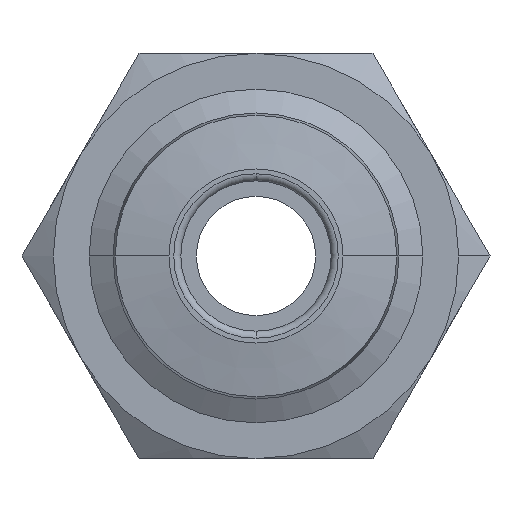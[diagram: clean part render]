
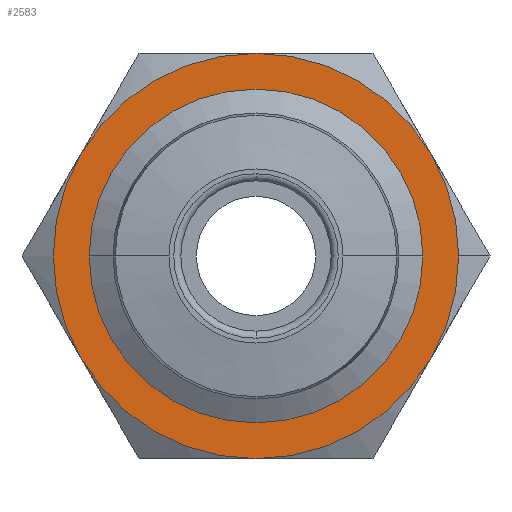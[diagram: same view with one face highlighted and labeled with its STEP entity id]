
A CAD part, front view. The second image highlights one B-rep face of the part: STEP entity #2583.
In plain terms, the highlighted planar face has unit normal (0, -1, 0).
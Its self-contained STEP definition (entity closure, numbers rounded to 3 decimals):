
#45 = ORIENTED_EDGE ( 'NONE', *, *, #182, .T. ) ;
#82 = DIRECTION ( 'NONE',  ( 1., 0., 0. ) ) ;
#149 = DIRECTION ( 'NONE',  ( 1., 0., 0. ) ) ;
#152 = AXIS2_PLACEMENT_3D ( 'NONE', #476, #249, #1048 ) ;
#154 = DIRECTION ( 'NONE',  ( 0., -1., 0. ) ) ;
#174 = DIRECTION ( 'NONE',  ( 1., 0., 0. ) ) ;
#182 = EDGE_CURVE ( 'NONE', #1107, #894, #2553, .T. ) ;
#243 = DIRECTION ( 'NONE',  ( 0., -1., 0. ) ) ;
#249 = DIRECTION ( 'NONE',  ( 0., -1., 0. ) ) ;
#312 = VERTEX_POINT ( 'NONE', #1612 ) ;
#388 = PLANE ( 'NONE',  #1300 ) ;
#403 = CIRCLE ( 'NONE', #911, 8.5 ) ;
#412 = CARTESIAN_POINT ( 'NONE',  ( 0., -6., 0. ) ) ;
#476 = CARTESIAN_POINT ( 'NONE',  ( 0., -6., 0. ) ) ;
#482 = CARTESIAN_POINT ( 'NONE',  ( 0., -6., 8.5 ) ) ;
#544 = FACE_BOUND ( 'NONE', #2264, .T. ) ;
#623 = CARTESIAN_POINT ( 'NONE',  ( 0., -6., 0. ) ) ;
#671 = EDGE_CURVE ( 'NONE', #1108, #312, #1141, .T. ) ;
#704 = EDGE_CURVE ( 'NONE', #1201, #2298, #403, .T. ) ;
#738 = CARTESIAN_POINT ( 'NONE',  ( 0., -6., 0. ) ) ;
#786 = CARTESIAN_POINT ( 'NONE',  ( 0., -6., -8.5 ) ) ;
#894 = VERTEX_POINT ( 'NONE', #482 ) ;
#911 = AXIS2_PLACEMENT_3D ( 'NONE', #1237, #2407, #2042 ) ;
#924 = ORIENTED_EDGE ( 'NONE', *, *, #945, .T. ) ;
#935 = DIRECTION ( 'NONE',  ( 1., 0., 0. ) ) ;
#945 = EDGE_CURVE ( 'NONE', #894, #1201, #2468, .T. ) ;
#957 = CARTESIAN_POINT ( 'NONE',  ( 7.75, -6., 0. ) ) ;
#1048 = DIRECTION ( 'NONE',  ( 1., 0., 0. ) ) ;
#1107 = VERTEX_POINT ( 'NONE', #2590 ) ;
#1108 = VERTEX_POINT ( 'NONE', #786 ) ;
#1109 = EDGE_CURVE ( 'NONE', #2298, #1108, #1265, .T. ) ;
#1141 = CIRCLE ( 'NONE', #2609, 8.5 ) ;
#1158 = CARTESIAN_POINT ( 'NONE',  ( 0., -6., 0. ) ) ;
#1186 = AXIS2_PLACEMENT_3D ( 'NONE', #1362, #1938, #2368 ) ;
#1198 = DIRECTION ( 'NONE',  ( 0., 0., -1. ) ) ;
#1201 = VERTEX_POINT ( 'NONE', #1289 ) ;
#1216 = ORIENTED_EDGE ( 'NONE', *, *, #2534, .T. ) ;
#1225 = EDGE_CURVE ( 'NONE', #312, #1621, #2304, .T. ) ;
#1237 = CARTESIAN_POINT ( 'NONE',  ( 0., -6., 0. ) ) ;
#1255 = AXIS2_PLACEMENT_3D ( 'NONE', #1158, #2600, #174 ) ;
#1265 = CIRCLE ( 'NONE', #1886, 8.5 ) ;
#1289 = CARTESIAN_POINT ( 'NONE',  ( -7.361, -6., 4.25 ) ) ;
#1300 = AXIS2_PLACEMENT_3D ( 'NONE', #957, #2198, #1198 ) ;
#1301 = CIRCLE ( 'NONE', #1255, 8.5 ) ;
#1302 = DIRECTION ( 'NONE',  ( 0., -1., 0. ) ) ;
#1319 = CIRCLE ( 'NONE', #1725, 7. ) ;
#1354 = DIRECTION ( 'NONE',  ( 0., -1., 0. ) ) ;
#1362 = CARTESIAN_POINT ( 'NONE',  ( 0., -6., 0. ) ) ;
#1365 = EDGE_CURVE ( 'NONE', #1681, #2342, #2436, .T. ) ;
#1403 = DIRECTION ( 'NONE',  ( 1., 0., 0. ) ) ;
#1455 = EDGE_CURVE ( 'NONE', #2342, #1681, #1319, .T. ) ;
#1539 = ORIENTED_EDGE ( 'NONE', *, *, #704, .T. ) ;
#1594 = ORIENTED_EDGE ( 'NONE', *, *, #1225, .T. ) ;
#1612 = CARTESIAN_POINT ( 'NONE',  ( 7.361, -6., -4.25 ) ) ;
#1621 = VERTEX_POINT ( 'NONE', #2481 ) ;
#1681 = VERTEX_POINT ( 'NONE', #1769 ) ;
#1709 = AXIS2_PLACEMENT_3D ( 'NONE', #1953, #1354, #149 ) ;
#1725 = AXIS2_PLACEMENT_3D ( 'NONE', #2017, #243, #1403 ) ;
#1769 = CARTESIAN_POINT ( 'NONE',  ( -7., -6., 0. ) ) ;
#1850 = ORIENTED_EDGE ( 'NONE', *, *, #1365, .F. ) ;
#1884 = AXIS2_PLACEMENT_3D ( 'NONE', #738, #154, #935 ) ;
#1886 = AXIS2_PLACEMENT_3D ( 'NONE', #623, #1302, #82 ) ;
#1938 = DIRECTION ( 'NONE',  ( 0., -1., 0. ) ) ;
#1953 = CARTESIAN_POINT ( 'NONE',  ( 0., -6., 0. ) ) ;
#2017 = CARTESIAN_POINT ( 'NONE',  ( 0., -6., 0. ) ) ;
#2042 = DIRECTION ( 'NONE',  ( 1., 0., 0. ) ) ;
#2061 = ORIENTED_EDGE ( 'NONE', *, *, #1455, .F. ) ;
#2188 = EDGE_LOOP ( 'NONE', ( #1594, #1216, #45, #924, #1539, #2208, #2281 ) ) ;
#2198 = DIRECTION ( 'NONE',  ( 0., -1., 0. ) ) ;
#2207 = DIRECTION ( 'NONE',  ( 0., -1., 0. ) ) ;
#2208 = ORIENTED_EDGE ( 'NONE', *, *, #1109, .T. ) ;
#2264 = EDGE_LOOP ( 'NONE', ( #2061, #1850 ) ) ;
#2281 = ORIENTED_EDGE ( 'NONE', *, *, #671, .T. ) ;
#2298 = VERTEX_POINT ( 'NONE', #2488 ) ;
#2304 = CIRCLE ( 'NONE', #152, 8.5 ) ;
#2342 = VERTEX_POINT ( 'NONE', #2476 ) ;
#2368 = DIRECTION ( 'NONE',  ( 1., 0., 0. ) ) ;
#2387 = FACE_OUTER_BOUND ( 'NONE', #2188, .T. ) ;
#2407 = DIRECTION ( 'NONE',  ( 0., -1., 0. ) ) ;
#2436 = CIRCLE ( 'NONE', #1186, 7. ) ;
#2468 = CIRCLE ( 'NONE', #1709, 8.5 ) ;
#2476 = CARTESIAN_POINT ( 'NONE',  ( 7., -6., 0. ) ) ;
#2481 = CARTESIAN_POINT ( 'NONE',  ( 8.5, -6., 0. ) ) ;
#2488 = CARTESIAN_POINT ( 'NONE',  ( -7.361, -6., -4.25 ) ) ;
#2534 = EDGE_CURVE ( 'NONE', #1621, #1107, #1301, .T. ) ;
#2553 = CIRCLE ( 'NONE', #1884, 8.5 ) ;
#2583 = ADVANCED_FACE ( 'NONE', ( #2387, #544 ), #388, .T. ) ;
#2590 = CARTESIAN_POINT ( 'NONE',  ( 7.361, -6., 4.25 ) ) ;
#2600 = DIRECTION ( 'NONE',  ( 0., -1., 0. ) ) ;
#2608 = DIRECTION ( 'NONE',  ( 1., 0., 0. ) ) ;
#2609 = AXIS2_PLACEMENT_3D ( 'NONE', #412, #2207, #2608 ) ;
